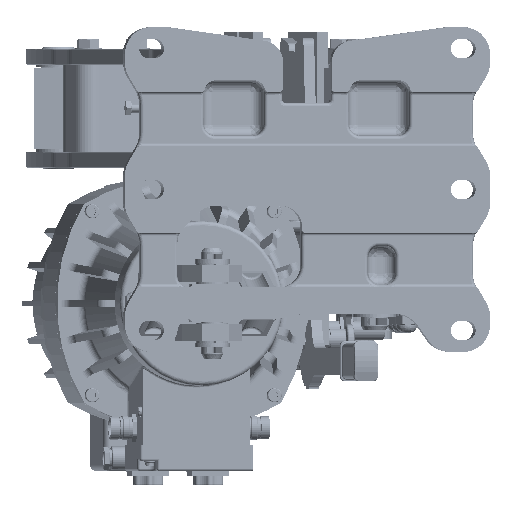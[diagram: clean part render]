
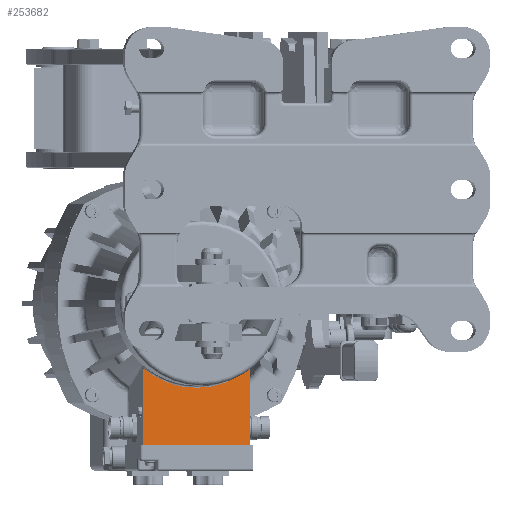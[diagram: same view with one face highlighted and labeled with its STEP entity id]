
A CAD part, front view. The second image highlights one B-rep face of the part: STEP entity #253682.
In plain terms, the highlighted planar face has unit normal (0.135, -0.991, 0).
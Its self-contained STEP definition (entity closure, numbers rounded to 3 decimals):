
#1466=DIRECTION('',(0.991,0.135,0.));
#1467=VECTOR('',#1466,78.701);
#1468=CARTESIAN_POINT('',(98.963,-415.541,-315.));
#1469=LINE('',#1468,#1467);
#1657=DIRECTION('',(0.991,0.135,0.));
#1658=VECTOR('',#1657,21.299);
#1659=CARTESIAN_POINT('',(77.86,-418.421,-315.));
#1660=LINE('',#1659,#1658);
#1747=CARTESIAN_POINT('',(77.86,-418.421,
-239.867));
#1752=DIRECTION('',(0.,0.,-1.));
#1753=VECTOR('',#1752,75.133);
#1754=CARTESIAN_POINT('',(77.86,-418.421,
-239.867));
#1755=LINE('',#1754,#1753);
#2137=CARTESIAN_POINT('',(127.401,-411.66,-180.));
#2138=DIRECTION('',(0.135,-0.991,0.));
#2139=DIRECTION('',(-0.635,-0.087,-0.768));
#2140=AXIS2_PLACEMENT_3D('',#2137,#2138,#2139);
#2145=DIRECTION('',(0.,0.,-1.));
#2146=VECTOR('',#2145,75.133);
#2147=CARTESIAN_POINT('',(176.941,-404.898,
-239.867));
#2148=LINE('',#2147,#2146);
#224333=VERTEX_POINT('',#1747);
#224334=CARTESIAN_POINT('',(77.86,-418.421,-315.));
#224335=VERTEX_POINT('',#224334);
#224372=CARTESIAN_POINT('',(98.963,-415.541,-315.));
#224373=VERTEX_POINT('',#224372);
#224374=CARTESIAN_POINT('',(176.941,-404.898,-315.));
#224375=VERTEX_POINT('',#224374);
#224438=CARTESIAN_POINT('',(176.941,-404.898,
-239.867));
#224439=VERTEX_POINT('',#224438);
#253669=CARTESIAN_POINT('',(176.941,-404.898,-315.));
#253670=DIRECTION('',(0.135,-0.991,0.));
#253671=DIRECTION('',(-0.991,-0.135,0.));
#253672=AXIS2_PLACEMENT_3D('',#253669,#253670,#253671);
#253673=PLANE('',#253672);
#253674=ORIENTED_EDGE('',*,*,#253495,.F.);
#253675=ORIENTED_EDGE('',*,*,#253531,.F.);
#253677=ORIENTED_EDGE('',*,*,#253676,.T.);
#253678=ORIENTED_EDGE('',*,*,#253618,.T.);
#253679=ORIENTED_EDGE('',*,*,#253400,.F.);
#253680=EDGE_LOOP('',(#253674,#253675,#253677,#253678,#253679));
#253681=FACE_OUTER_BOUND('',#253680,.F.);
#253682=ADVANCED_FACE('',(#253681),#253673,.T.);
#2141=CIRCLE('',#2140,78.);
#253400=EDGE_CURVE('',#224373,#224375,#1469,.T.);
#253495=EDGE_CURVE('',#224335,#224373,#1660,.T.);
#253531=EDGE_CURVE('',#224333,#224335,#1755,.T.);
#253618=EDGE_CURVE('',#224439,#224375,#2148,.T.);
#253676=EDGE_CURVE('',#224333,#224439,#2141,.T.);
